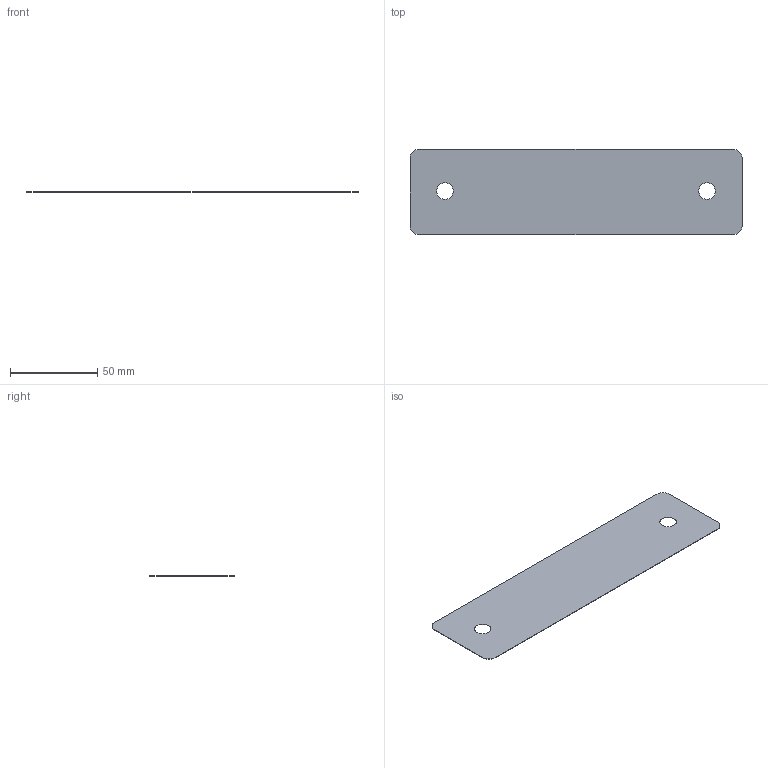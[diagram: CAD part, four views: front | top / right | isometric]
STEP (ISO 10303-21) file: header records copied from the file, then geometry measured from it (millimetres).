
FILE_DESCRIPTION(/* description */ ('CALE MYLAR PIED 1','CAx-IF Rec.Pracs.---Representation and Presentation of Product Manufacturing Information (PMI)---4.0---2014-10-13'),/* implementation_level */ '2;1');
FILE_NAME(/* name */ 'vv340039-A.stp',/* time_stamp */ '2025-09-24T13:43:21+02:00',/* author */ ('mmartin'),/* organization */ (''),/* preprocessor_version */ 'ST-DEVELOPER v20',/* originating_system */ 'Autodesk Inventor 2025',/* authorisation */ '');
FILE_SCHEMA (('AP242_MANAGED_MODEL_BASED_3D_ENGINEERING_MIM_LF { 1 0 10303 442 1 1 4 }'));
Length unit declared in the file: millimetre
Products named in the file (1): VICTOR.V.34.00.39
Bounding box: 190 x 49 x 0.25 mm (x, y, z)
Volume: 2286.7 mm3; surface area: 18425.8 mm2
Topology: 1 solids, 1 shells, 12 faces, 30 edges, 20 vertices
Faces by surface type: cylinder 6, plane 6
Full cylindrical faces by diameter (mm): 9.5 x2
Entity records: 489 total; most frequent: DIRECTION 80, CARTESIAN_POINT 79, ORIENTED_EDGE 60, AXIS2_PLACEMENT_3D 31, EDGE_CURVE 30, VERTEX_POINT 20, LINE 18, VECTOR 18
